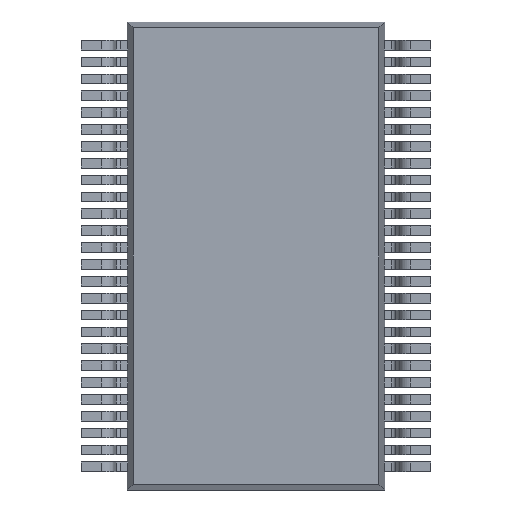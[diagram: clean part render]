
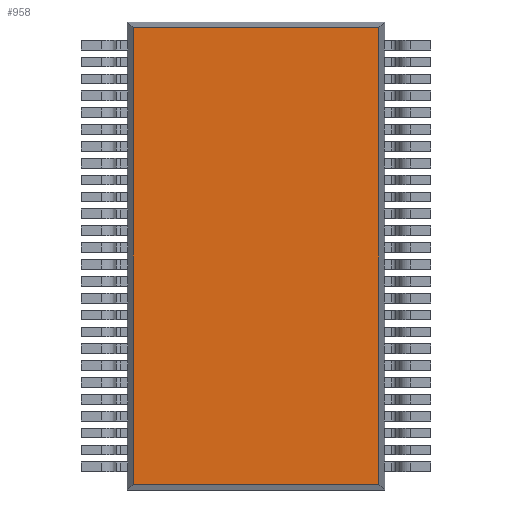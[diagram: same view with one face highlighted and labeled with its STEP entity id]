
A CAD part, front view. The second image highlights one B-rep face of the part: STEP entity #958.
In plain terms, the highlighted planar face has unit normal (0, -1, 0).
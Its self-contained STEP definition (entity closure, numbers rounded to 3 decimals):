
#958 = ADVANCED_FACE ( 'NONE', ( #21085 ), #20205, .F. ) ;
#2097 = EDGE_CURVE ( 'NONE', #5694, #5690, #27257, .T. ) ;
#2105 = EDGE_CURVE ( 'NONE', #5697, #5684, #27271, .T. ) ;
#2280 = EDGE_CURVE ( 'NONE', #5684, #5694, #27594, .T. ) ;
#2281 = EDGE_CURVE ( 'NONE', #5690, #5697, #27596, .T. ) ;
#5684 = VERTEX_POINT ( 'NONE', #29711 ) ;
#5690 = VERTEX_POINT ( 'NONE', #29730 ) ;
#5694 = VERTEX_POINT ( 'NONE', #29734 ) ;
#5697 = VERTEX_POINT ( 'NONE', #29737 ) ;
#6636 = EDGE_LOOP ( 'NONE', ( #9795, #9796, #9797, #9798 ) ) ;
#9795 = ORIENTED_EDGE ( 'NONE', *, *, #2105, .T. ) ;
#9796 = ORIENTED_EDGE ( 'NONE', *, *, #2280, .T. ) ;
#9797 = ORIENTED_EDGE ( 'NONE', *, *, #2097, .T. ) ;
#9798 = ORIENTED_EDGE ( 'NONE', *, *, #2281, .T. ) ;
#15805 = AXIS2_PLACEMENT_3D ( 'NONE', #20196, #20207, #20208 ) ;
#20196 = CARTESIAN_POINT ( 'NONE',  ( 0., 0.1, 0. ) ) ;
#20205 = PLANE ( 'NONE',  #15805 ) ;
#20207 = DIRECTION ( 'NONE',  ( 0., 1., 0. ) ) ;
#20208 = DIRECTION ( 'NONE',  ( 0., 0., 1. ) ) ;
#21085 = FACE_OUTER_BOUND ( 'NONE', #6636, .T. ) ;
#27098 = CARTESIAN_POINT ( 'NONE',  ( 2.909, 0.1, 5.55 ) ) ;
#27100 = DIRECTION ( 'NONE',  ( 0., 0., 1. ) ) ;
#27109 = DIRECTION ( 'NONE',  ( 0., 0., -1. ) ) ;
#27114 = CARTESIAN_POINT ( 'NONE',  ( -2.909, 0.1, 5.55 ) ) ;
#27257 = LINE ( 'NONE', #27098, #27260 ) ;
#27260 = VECTOR ( 'NONE', #27100, 1000. ) ;
#27271 = LINE ( 'NONE', #27114, #27274 ) ;
#27274 = VECTOR ( 'NONE', #27109, 1000. ) ;
#27594 = LINE ( 'NONE', #28661, #27597 ) ;
#27596 = LINE ( 'NONE', #28663, #27599 ) ;
#27597 = VECTOR ( 'NONE', #28662, 1000. ) ;
#27599 = VECTOR ( 'NONE', #28664, 1000. ) ;
#28661 = CARTESIAN_POINT ( 'NONE',  ( 3.05, 0.1, -5.409 ) ) ;
#28662 = DIRECTION ( 'NONE',  ( 1., 0., 0. ) ) ;
#28663 = CARTESIAN_POINT ( 'NONE',  ( 3.05, 0.1, 5.409 ) ) ;
#28664 = DIRECTION ( 'NONE',  ( -1., 0., 0. ) ) ;
#29711 = CARTESIAN_POINT ( 'NONE',  ( -2.909, 0.1, -5.409 ) ) ;
#29730 = CARTESIAN_POINT ( 'NONE',  ( 2.909, 0.1, 5.409 ) ) ;
#29734 = CARTESIAN_POINT ( 'NONE',  ( 2.909, 0.1, -5.409 ) ) ;
#29737 = CARTESIAN_POINT ( 'NONE',  ( -2.909, 0.1, 5.409 ) ) ;
